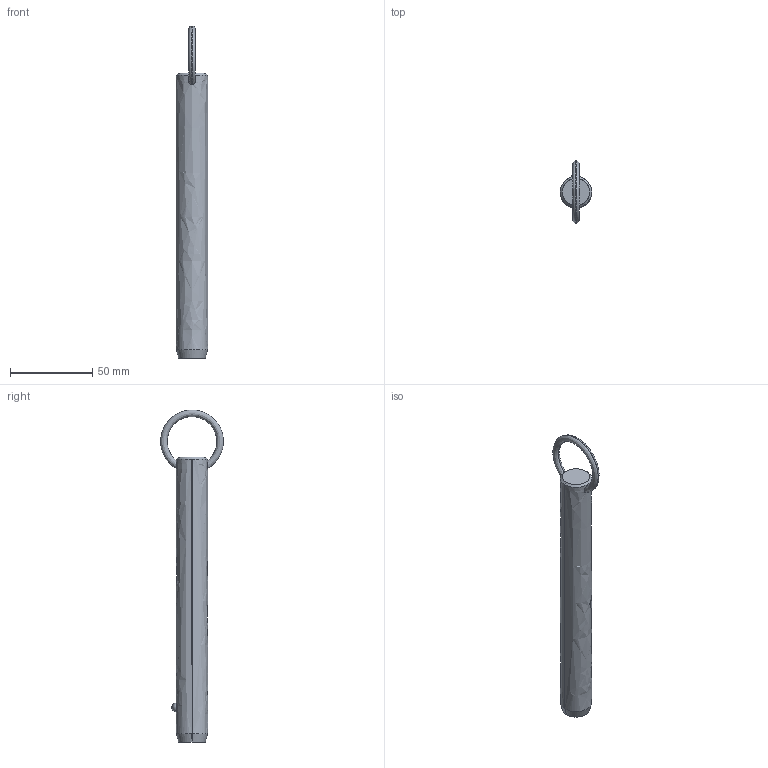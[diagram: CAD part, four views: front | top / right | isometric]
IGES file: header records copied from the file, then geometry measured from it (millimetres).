
Start section: SolidWorks IGES file using analytic representation for surfaces
Global section: file name: C:\Users\liam_\OneDrive\Documents\WORK\Work for WixRoyd\Job Files\J-00019 - Matt Davis CAD Checking\04. CAD Drawings\automotion20190605\P1250.2_v2\P1250.2_v2_20190729_IGES\P1250.075-550.igs; native system: SolidWorks 2017; preprocessor: SolidWorks 2017; author: liam_; date: 190729.235736; units: millimetre
Bounding box: 19 x 38.05 x 201.5 mm (x, y, z)
Surface area: 11853.3 mm2 (no closed solid volume)
Topology: 0 solids, 0 shells, 12 faces, 294 edges, 292 vertices
Faces by surface type: revolution 8, bspline 4
